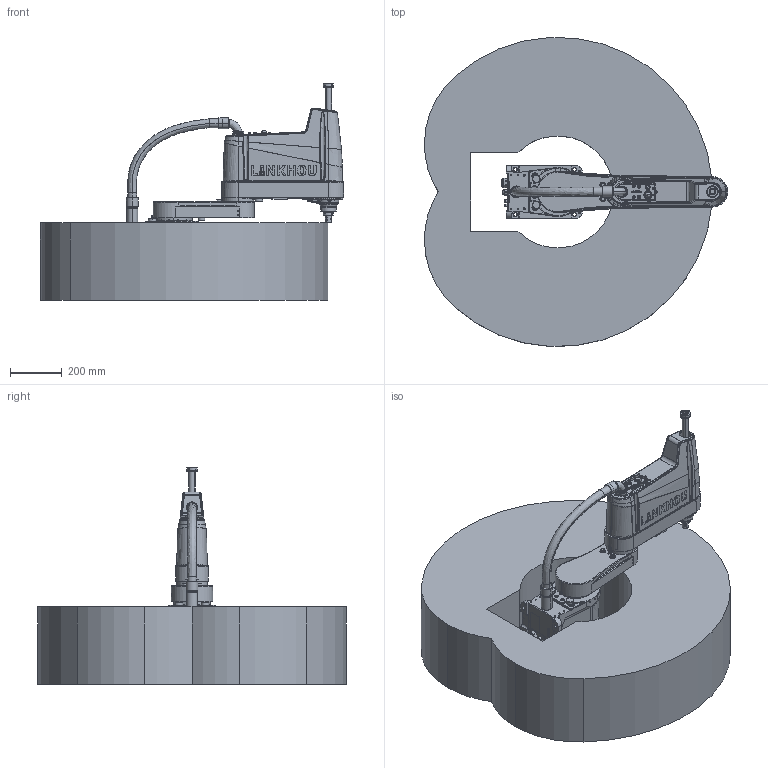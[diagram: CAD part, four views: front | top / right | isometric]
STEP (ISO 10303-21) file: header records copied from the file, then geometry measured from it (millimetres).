
FILE_DESCRIPTION (( 'STEP AP203' ), '1' );
FILE_NAME ('TM10A-R600Z30ÓÐlogo2017.step', '2023-12-22T14:10:25', ( '' ), ( '' ), 'SwSTEP 2.0', 'SolidWorks 2017', '' );
FILE_SCHEMA (( 'CONFIG_CONTROL_DESIGN' ));
Length unit declared in the file: millimetre
Products named in the file (7): TM10A-R600Z30ÓÐlogo2017; ｸｴｼ ｸｴｼ TM10A-ｵﾗﾗTM10A-R600Z30ﾓﾐlogo2017; ｸｴｼ 25ﾋｿｸﾋ540ﾊﾄ｣ﾍｼ^TM10A-R600Z30ﾓﾐlogo2017; ｸｴｼ ｸｴｼ TM10A-R600ﾏﾟﾊTM10A-R600Z30ﾓﾐlogo2017; ｸｴｼ ｸｴｼ TM10A-R600ｴﾛ^TM10A-R600Z30ﾓﾐlogo2017; ｸｴｼ TM10Aﾐ｡ｱﾛﾓﾐlogo^TM10A-R600Z30ﾓﾐlogo2017; ｸｴｼ ｸｴｼ ｸｴｼ TM10A-R600ﾔﾋｶｯｷｶﾎｧﾍｼ^TM10A-R600Z30ﾓﾐlogo2017
Assembly tree (6 placements, depth 2):
  TM10A-R600Z30ÓÐlogo2017
    ｸｴｼ ｸｴｼ TM10A-ｵﾗﾗTM10A-R600Z30ﾓﾐlogo2017
    ｸｴｼ ｸｴｼ TM10A-R600ｴﾛ^TM10A-R600Z30ﾓﾐlogo2017
    ｸｴｼ TM10Aﾐ｡ｱﾛﾓﾐlogo^TM10A-R600Z30ﾓﾐlogo2017
    ｸｴｼ 25ﾋｿｸﾋ540ﾊﾄ｣ﾍｼ^TM10A-R600Z30ﾓﾐlogo2017
    ｸｴｼ ｸｴｼ TM10A-R600ﾏﾟﾊTM10A-R600Z30ﾓﾐlogo2017
    ｸｴｼ ｸｴｼ ｸｴｼ TM10A-R600ﾔﾋｶｯｷｶﾎｧﾍｼ^TM10A-R600Z30ﾓﾐlogo2017
Bounding box: 1176.28 x 1198.47 x 840 mm (x, y, z)
Volume: 285986230 mm3; surface area: 5298664.4 mm2
Topology: 42 solids, 43 shells, 3165 faces, 8054 edges, 5086 vertices
Faces by surface type: plane 960, bspline 829, cylinder 806, cone 569, torus 1
Entity records: 185796 total; most frequent: CARTESIAN_POINT 117849, ORIENTED_EDGE 15890, DIRECTION 10964, EDGE_CURVE 7945, VERTEX_POINT 5086, AXIS2_PLACEMENT_3D 4104, EDGE_LOOP 3513, FACE_OUTER_BOUND 3165
